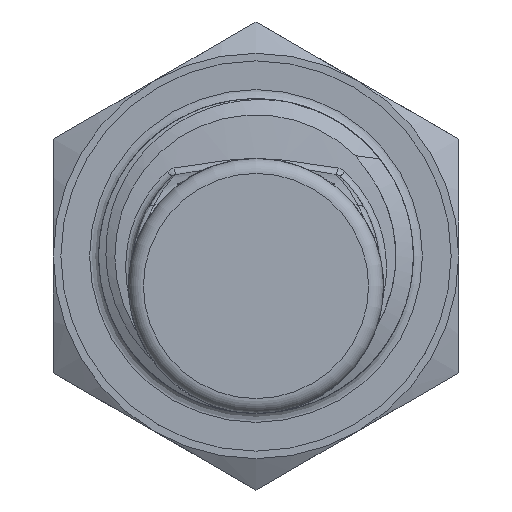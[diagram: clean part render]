
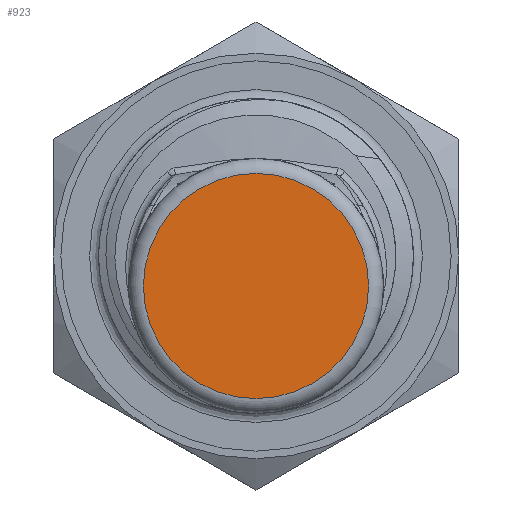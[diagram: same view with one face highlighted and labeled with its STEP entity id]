
A CAD part, left-side view. The second image highlights one B-rep face of the part: STEP entity #923.
In plain terms, the highlighted planar face has unit normal (-1, 0, 0).
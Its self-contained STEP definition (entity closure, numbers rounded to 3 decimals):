
#285=FACE_OUTER_BOUND('',#1212,.T.);
#923=ADVANCED_FACE('',(#285),#968,.T.);
#968=PLANE('',#3104);
#1212=EDGE_LOOP('',(#2048));
#2048=ORIENTED_EDGE('',*,*,#2731,.T.);
#2313=VERTEX_POINT('',#10115);
#2731=EDGE_CURVE('',#2313,#2313,#2850,.T.);
#2850=CIRCLE('',#3103,7.5);
#3103=AXIS2_PLACEMENT_3D('',#10114,#3725,#3726);
#3104=AXIS2_PLACEMENT_3D('',#10116,#3727,#3728);
#3725=DIRECTION('',(-1.,0.,0.));
#3726=DIRECTION('',(0.,0.,1.));
#3727=DIRECTION('',(-1.,0.,0.));
#3728=DIRECTION('',(0.,0.,1.));
#10114=CARTESIAN_POINT('',(-48.5,0.,-2.));
#10115=CARTESIAN_POINT('',(-48.5,0.,5.5));
#10116=CARTESIAN_POINT('',(-48.5,0.,-2.));
